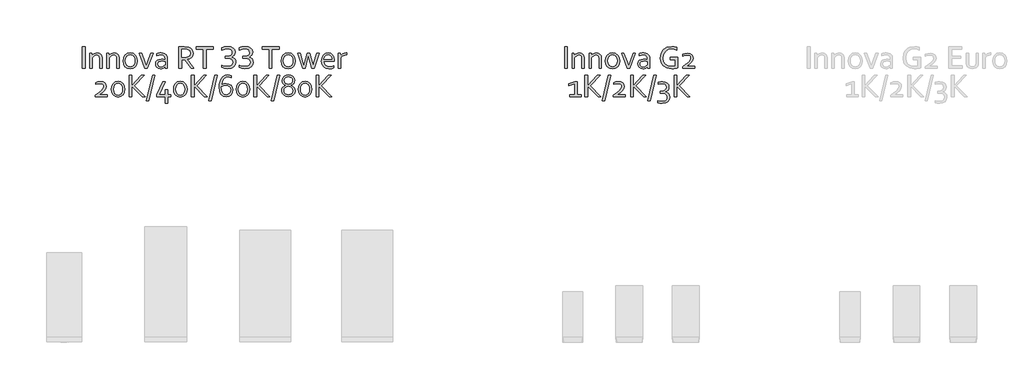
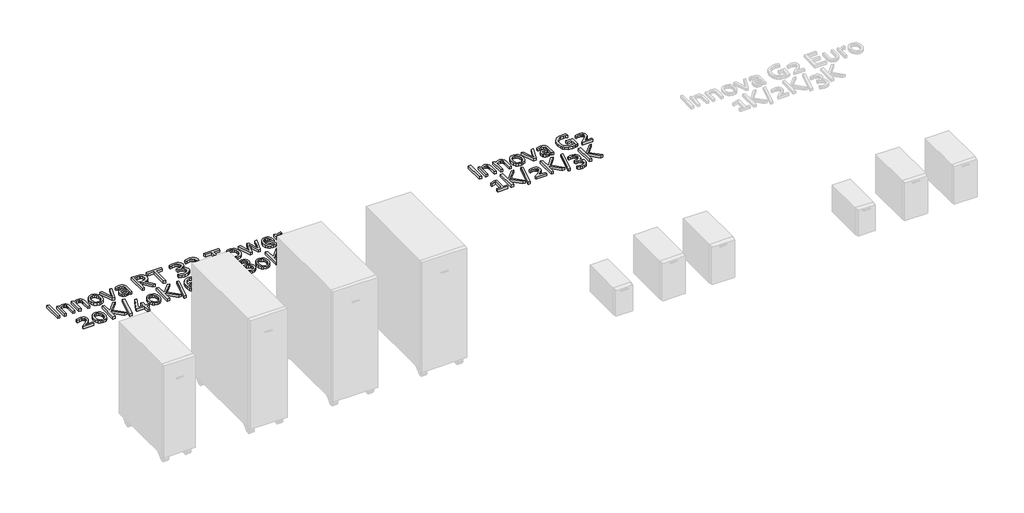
# One storey, part 10 of 14: 2 proxies.
"""IFC4 building model written with IfcOpenShell, lengths in millimetres."""

from ifc_helpers import new_model, si_unit, origin, origin_with_axes, place, context, project, spatial, polyline, outline, extrude, element, save

model = new_model("IFC4")

# Units and contexts
model_context = context("Model", 3, world=origin())
ifc_project = project(units=[si_unit("LENGTHUNIT", "METRE", prefix="MILLI")], contexts=[model_context])

# Site, building, storey
site = spatial("IfcSite", under=ifc_project)
building = spatial("IfcBuilding", under=site)
storey = spatial("IfcBuildingStorey", under=building, Name="Этаж 01", Elevation=0.0)

# Proxies
placement = place(None, origin())
element("IfcBuildingElementProxy", 1, Name="150 мм Corbel", ObjectType="150 мм Corbel", at=placement, inside=storey, context=model_context, shape_type="SweptSolid", body=[
    extrude(outline(polyline([(15388.5751124, -3344.4864996), (15388.5751124, -3193.2852077), (15408.1752799, -3193.2852077), (15408.1752799, -3344.4864996), (15388.5751124, -3344.4864996)])), origin_with_axes(), (0.0, 0.0, 1.0), 20.0),
    extrude(outline(polyline([(15458.4882098, -3252.8732169), (15465.2038921, -3246.0044082), (15473.0570842, -3240.3824851), (15482.5727905, -3236.619953), (15493.8385118, -3235.2855666), (15507.444878, -3237.2980838), (15518.4480971, -3243.7950143), (15525.8419102, -3255.4982393), (15528.5763086, -3273.260891), (15528.5763086, -3344.4864996), (15511.7761651, -3344.4864996), (15511.7761651, -3275.4046594), (15510.4308411, -3263.4444009), (15506.3948691, -3255.3888633), (15499.7885626, -3250.8114805), (15490.7322353, -3249.2856862), (15473.1883354, -3254.5138559), (15458.5757105, -3268.8858537), (15458.5757105, -3344.4864996), (15441.775567, -3344.4864996), (15441.775567, -3238.0855905), (15455.119431, -3238.0855905), (15458.4882098, -3252.8732169)])), origin_with_axes(), (0.0, 0.0, 1.0), 20.0),
    extrude(outline(polyline([(15578.8892385, -3252.8732169), (15585.6049208, -3246.0044082), (15593.4581129, -3240.3824851), (15602.9738192, -3236.619953), (15614.2395405, -3235.2855666), (15627.8459067, -3237.2980838), (15638.8491257, -3243.7950143), (15646.2429389, -3255.4982393), (15648.9773373, -3273.260891), (15648.9773373, -3344.4864996), (15632.1771937, -3344.4864996), (15632.1771937, -3275.4046594), (15630.8318697, -3263.4444009), (15626.7958978, -3255.3888633), (15620.1895913, -3250.8114805), (15611.1332639, -3249.2856862), (15593.5893641, -3254.5138559), (15578.9767392, -3268.8858537), (15578.9767392, -3344.4864996), (15562.1765957, -3344.4864996), (15562.1765957, -3238.0855905), (15575.5204597, -3238.0855905), (15578.8892385, -3252.8732169)])), origin_with_axes(), (0.0, 0.0, 1.0), 20.0),
    extrude(outline(polyline([(15777.7784377, -3291.4172962), (15774.2127823, -3314.2331161), (15764.1064459, -3331.8863919), (15748.2906858, -3343.2614891), (15727.5092582, -3347.2865235), (15706.3122021, -3343.2614891), (15690.4308164, -3331.8863919), (15680.433856, -3314.2331161), (15676.9775765, -3291.4172962), (15680.543232, -3268.4264747), (15690.6495683, -3250.7294485), (15706.530954, -3239.310601), (15727.3780071, -3235.2855666), (15748.4875625, -3239.310601), (15764.3689482, -3250.7294485), (15774.3221582, -3268.4264747), (15777.7784377, -3291.4172962)]), holes=[polyline([(15760.9782942, -3291.4172962), (15758.4845229, -3273.5452685), (15751.5063383, -3260.3107804), (15740.8531222, -3252.0857101), (15727.3780071, -3249.2856862), (15713.902892, -3252.0857101), (15703.249676, -3260.3107804), (15696.2714914, -3273.5452685), (15693.77772, -3291.4172962), (15696.2714914, -3309.1580727), (15703.3153015, -3322.3269353), (15714.0122679, -3330.48638), (15727.5092582, -3333.2864039), (15740.9187478, -3330.48638), (15751.5063383, -3322.3269353), (15758.4845229, -3309.1580727), (15760.9782942, -3291.4172962)])]), origin_with_axes(), (0.0, 0.0, 1.0), 20.0),
    extrude(outline(polyline([(15840.6914752, -3326.8988493), (15851.4540672, -3297.2360959), (15872.9792511, -3238.0855905), (15889.7793946, -3238.0855905), (15849.7478026, -3344.4864996), (15831.8101494, -3344.4864996), (15791.7785573, -3238.0855905), (15808.5787009, -3238.0855905), (15829.9726337, -3297.2360959), (15840.6914752, -3326.8988493)])), origin_with_axes(), (0.0, 0.0, 1.0), 20.0),
    extrude(outline(polyline([(15974.3051168, -3332.717649), (15968.5081923, -3338.0333194), (15961.0925039, -3342.7583598), (15951.9049254, -3346.061513), (15941.2735846, -3347.2865235), (15927.2515898, -3345.0333793), (15916.2921212, -3338.4051976), (15909.1389351, -3327.7519816), (15906.5795382, -3313.5112349), (15909.4233125, -3299.5111153), (15917.3858805, -3289.0329008), (15929.7016107, -3282.4047192), (15945.6048716, -3280.0859494), (15960.8518769, -3281.5734621), (15973.3426086, -3284.9422408), (15973.7801123, -3277.3296758), (15973.2113575, -3268.9952296), (15971.286341, -3262.6295502), (15962.0112618, -3253.0700935), (15944.7298641, -3249.2856862), (15929.5266092, -3250.7731989), (15915.3733633, -3254.885734), (15915.3733633, -3241.1918671), (15921.6952923, -3238.8074717), (15929.3734829, -3236.9043304), (15937.8829306, -3235.7011951), (15946.8736325, -3235.2855666), (15961.5081325, -3236.7129225), (15973.1238567, -3240.9949904), (15981.7864307, -3247.6286408), (15987.5614801, -3256.1107445), (15989.8802499, -3264.007687), (15990.5802559, -3273.4796429), (15990.5802559, -3344.4864996), (15976.1863829, -3344.4864996), (15974.3051168, -3332.717649)]), holes=[polyline([(15973.7801123, -3298.067353), (15962.1643881, -3295.4642057), (15947.3986369, -3294.086069), (15929.7453611, -3298.8548597), (15924.9711016, -3304.9033489), (15923.3796817, -3313.5112349), (15924.9765704, -3322.2613097), (15929.3516077, -3328.4519876), (15935.936039, -3332.0832686), (15944.0736085, -3333.2864039), (15954.661199, -3331.6457649), (15963.3675234, -3327.7301064), (15969.8425787, -3323.1800675), (15973.7801123, -3319.6362873), (15973.7801123, -3298.067353)])]), origin_with_axes(), (0.0, 0.0, 1.0), 20.0),
    extrude(outline(polyline([(16091.3811171, -3282.8859733), (16091.3811171, -3344.4864996), (16071.7809496, -3344.4864996), (16071.7809496, -3193.2852077), (16110.7625327, -3193.2852077), (16127.5626762, -3194.0289641), (16140.2065343, -3196.3914843), (16154.0972779, -3202.2540344), (16164.2692398, -3211.1791106), (16170.5036681, -3222.9370236), (16172.5818109, -3237.2980838), (16169.672411, -3253.8794755), (16161.4910911, -3266.5670839), (16148.8691083, -3275.360909), (16132.5502188, -3280.392202), (16178.1818587, -3344.4864996), (16158.5816912, -3344.4864996), (16113.1250529, -3282.8859733), (16091.3811171, -3282.8859733)]), holes=[polyline([(16091.3811171, -3210.0853513), (16091.3811171, -3266.0858297), (16109.0562681, -3266.0858297), (16123.1001381, -3265.5170749), (16133.5564774, -3263.4608073), (16147.9284752, -3253.9669762), (16152.9816434, -3236.9480808), (16148.1472271, -3221.1104455), (16135.0877405, -3212.4916218), (16125.659535, -3210.6541061), (16111.6812905, -3210.0853513), (16091.3811171, -3210.0853513)])]), origin_with_axes(), (0.0, 0.0, 1.0), 20.0),
    extrude(outline(polyline([(16264.9826003, -3344.4864996), (16245.3824329, -3344.4864996), (16245.3824329, -3210.0853513), (16195.2882549, -3210.0853513), (16195.2882549, -3193.2852077), (16315.0767783, -3193.2852077), (16315.0767783, -3210.0853513), (16264.9826003, -3210.0853513), (16264.9826003, -3344.4864996)])), origin_with_axes(), (0.0, 0.0, 1.0), 20.0),
    extrude(outline(polyline([(16376.1523001, -3199.9790149), (16383.7648652, -3196.5664858), (16393.455573, -3193.5695852), (16404.9400461, -3191.3601913), (16417.8464064, -3190.4851838), (16439.7653436, -3193.2852077), (16455.9529819, -3201.3790269), (16465.9718175, -3214.263512), (16469.3843467, -3231.5667848), (16467.4155799, -3244.0356413), (16462.0999095, -3253.5732228), (16454.2685925, -3260.4857819), (16444.840387, -3265.0358208), (16456.2154842, -3269.6733604), (16465.5343138, -3276.5421691), (16472.2499962, -3286.6703806), (16474.9843945, -3300.4298732), (16471.5062398, -3318.5862783), (16460.5905216, -3333.5051558), (16441.7122353, -3343.5677417), (16414.2588757, -3347.2865235), (16391.8586843, -3344.9021281), (16374.0085318, -3338.1426954), (16374.0085318, -3321.8675563), (16391.5961821, -3328.145735), (16412.1151074, -3330.48638), (16430.8949553, -3328.5066756), (16444.4466336, -3322.5675623), (16452.6498287, -3312.9643553), (16455.3842271, -3299.9923694), (16452.9888941, -3289.1750895), (16445.8028952, -3281.1359583), (16433.8262304, -3276.1484157), (16417.0588996, -3274.4859015), (16400.127505, -3274.4859015), (16400.127505, -3257.685758), (16415.3963854, -3257.685758), (16431.9777771, -3255.8263671), (16442.5653676, -3250.6200726), (16448.1654154, -3242.7012549), (16449.7841792, -3232.7480449), (16447.771662, -3222.4229567), (16441.4934834, -3214.3510127), (16430.6871411, -3209.1447182), (16414.9151313, -3207.2853274), (16395.0305864, -3209.582222), (16376.1523001, -3215.6853991), (16376.1523001, -3199.9790149)])), origin_with_axes(), (0.0, 0.0, 1.0), 20.0),
    extrude(outline(polyline([(16499.3533527, -3199.9790149), (16506.9659178, -3196.5664858), (16516.6566256, -3193.5695852), (16528.1410987, -3191.3601913), (16541.047459, -3190.4851838), (16562.9663962, -3193.2852077), (16579.1540345, -3201.3790269), (16589.1728701, -3214.263512), (16592.5853993, -3231.5667848), (16590.6166325, -3244.0356413), (16585.3009621, -3253.5732228), (16577.4696452, -3260.4857819), (16568.0414396, -3265.0358208), (16579.4165368, -3269.6733604), (16588.7353664, -3276.5421691), (16595.4510488, -3286.6703806), (16598.1854471, -3300.4298732), (16594.7072924, -3318.5862783), (16583.7915742, -3333.5051558), (16564.9132879, -3343.5677417), (16537.4599283, -3347.2865235), (16515.0597369, -3344.9021281), (16497.2095844, -3338.1426954), (16497.2095844, -3321.8675563), (16514.7972347, -3328.145735), (16535.31616, -3330.48638), (16554.096008, -3328.5066756), (16567.6476862, -3322.5675623), (16575.8508813, -3312.9643553), (16578.5852797, -3299.9923694), (16576.1899467, -3289.1750895), (16569.0039478, -3281.1359583), (16557.027283, -3276.1484157), (16540.2599522, -3274.4859015), (16523.3285576, -3274.4859015), (16523.3285576, -3257.685758), (16538.597438, -3257.685758), (16555.1788297, -3255.8263671), (16565.7664202, -3250.6200726), (16571.366468, -3242.7012549), (16572.9852318, -3232.7480449), (16570.9727146, -3222.4229567), (16564.694536, -3214.3510127), (16553.8881937, -3209.1447182), (16538.1161839, -3207.2853274), (16518.231639, -3209.582222), (16499.3533527, -3215.6853991), (16499.3533527, -3199.9790149)])), origin_with_axes(), (0.0, 0.0, 1.0), 20.0),
    extrude(outline(polyline([(16729.7865715, -3344.4864996), (16710.1864041, -3344.4864996), (16710.1864041, -3210.0853513), (16660.0922261, -3210.0853513), (16660.0922261, -3193.2852077), (16779.8807495, -3193.2852077), (16779.8807495, -3210.0853513), (16729.7865715, -3210.0853513), (16729.7865715, -3344.4864996)])), origin_with_axes(), (0.0, 0.0, 1.0), 20.0),
    extrude(outline(polyline([(16894.987983, -3291.4172962), (16891.4223275, -3314.2331161), (16881.3159912, -3331.8863919), (16865.500231, -3343.2614891), (16844.7188035, -3347.2865235), (16823.5217474, -3343.2614891), (16807.6403617, -3331.8863919), (16797.6434013, -3314.2331161), (16794.1871217, -3291.4172962), (16797.7527772, -3268.4264747), (16807.8591136, -3250.7294485), (16823.7404992, -3239.310601), (16844.5875524, -3235.2855666), (16865.6971077, -3239.310601), (16881.5784934, -3250.7294485), (16891.5317034, -3268.4264747), (16894.987983, -3291.4172962)]), holes=[polyline([(16878.1878394, -3291.4172962), (16875.6940681, -3273.5452685), (16868.7158835, -3260.3107804), (16858.0626675, -3252.0857101), (16844.5875524, -3249.2856862), (16831.1124372, -3252.0857101), (16820.4592212, -3260.3107804), (16813.4810366, -3273.5452685), (16810.9872653, -3291.4172962), (16813.4810366, -3309.1580727), (16820.5248468, -3322.3269353), (16831.2218132, -3330.48638), (16844.7188035, -3333.2864039), (16858.1282931, -3330.48638), (16868.7158835, -3322.3269353), (16875.6940681, -3309.1580727), (16878.1878394, -3291.4172962)])]), origin_with_axes(), (0.0, 0.0, 1.0), 20.0),
    extrude(outline(polyline([(16987.3012717, -3255.6732408), (16980.6949652, -3281.0047072), (16963.5885691, -3344.4864996), (16946.1321699, -3344.4864996), (16911.7881265, -3238.0855905), (16928.58827, -3238.0855905), (16948.8009427, -3304.3674068), (16954.8822447, -3325.3238359), (16961.2260489, -3302.048637), (16978.9887007, -3238.0855905), (16995.7888442, -3238.0855905), (17014.5140042, -3302.048637), (17020.7703076, -3325.3238359), (17026.9828607, -3304.3674068), (17046.1892748, -3238.0855905), (17062.9894183, -3238.0855905), (17028.6453749, -3344.4864996), (17011.0139743, -3344.4864996), (16993.8638278, -3281.0047072), (16987.3012717, -3255.6732408)])), origin_with_axes(), (0.0, 0.0, 1.0), 20.0),
    extrude(outline(polyline([(17135.1337847, -3333.2864039), (17150.9057945, -3331.8207664), (17165.1027908, -3327.686356), (17165.1027908, -3341.5114742), (17150.9714201, -3345.7333852), (17132.9025157, -3347.2865235), (17111.4429573, -3344.3771236), (17094.4240619, -3334.9707933), (17083.6177196, -3317.9956482), (17079.7895619, -3292.7298074), (17083.7708459, -3267.4858417), (17094.3584364, -3249.6356892), (17109.5835664, -3238.8730972), (17127.5649701, -3235.2855666), (17144.058861, -3238.2168416), (17157.3589746, -3247.4481705), (17166.2621757, -3263.7014344), (17169.5215785, -3287.5672633), (17169.5215785, -3289.8204075), (17169.3903274, -3294.086069), (17095.6709476, -3294.086069), (17098.7553489, -3312.2862245), (17107.1772959, -3324.405078), (17119.6899028, -3331.1645108), (17135.1337847, -3333.2864039)]), holes=[polyline([(17126.8212137, -3249.2856862), (17115.3148654, -3251.7138319), (17106.0397862, -3258.3201384), (17099.6084812, -3268.0983469), (17096.5897054, -3280.0859494), (17152.5901839, -3280.0859494), (17150.9057945, -3267.988971), (17145.9401271, -3258.2107625), (17137.8900583, -3251.6700816), (17126.8212137, -3249.2856862)])]), origin_with_axes(), (0.0, 0.0, 1.0), 20.0),
    extrude(outline(polyline([(17257.9848344, -3249.2856862), (17244.5534696, -3250.4450711), (17233.3971243, -3253.9669762), (17223.9907939, -3259.8076511), (17216.9907341, -3268.0108462), (17216.9907341, -3344.4864996), (17200.1905906, -3344.4864996), (17200.1905906, -3238.0855905), (17213.1844516, -3238.0855905), (17216.4219792, -3255.0169852), (17223.0720361, -3247.273169), (17231.5377334, -3240.9949904), (17241.8628216, -3236.7949545), (17253.6535473, -3235.2855666), (17255.9285668, -3235.329317), (17257.9848344, -3235.4605681), (17257.9848344, -3249.2856862)])), origin_with_axes(), (0.0, 0.0, 1.0), 20.0),
    extrude(outline(polyline([(15510.1574012, -3531.3243143), (15533.3450993, -3530.8868106), (15567.0328872, -3530.8868106), (15567.0328872, -3544.8869302), (15481.7634086, -3544.8869302), (15481.7634086, -3535.3493487), (15505.5417368, -3517.5648218), (15524.3106471, -3501.7490616), (15536.6920029, -3487.0051857), (15541.1764162, -3472.5675623), (15539.6068716, -3463.9596763), (15534.8982376, -3457.6486848), (15527.247391, -3453.7767768), (15516.8512084, -3452.4861407), (15499.8760634, -3454.0830294), (15482.9009184, -3458.0861886), (15482.9009184, -3446.0110854), (15498.6510529, -3440.7391654), (15519.2137286, -3438.4860211), (15535.3576165, -3440.7172902), (15547.585846, -3447.2142207), (15555.2640366, -3457.7580608), (15557.9765598, -3472.2613097), (15554.4327795, -3488.6239495), (15544.6326958, -3503.2365743), (15529.4075657, -3517.0616925), (15510.1574012, -3531.3243143)])), origin_with_axes(), (0.0, 0.0, 1.0), 20.0),
    extrude(outline(polyline([(15689.5776842, -3491.8177268), (15686.3620317, -3513.9116655), (15677.0213269, -3531.6524421), (15662.1243246, -3543.4212927), (15642.0647782, -3547.6869541), (15621.6114785, -3543.4212927), (15606.6488506, -3531.6524421), (15597.4831473, -3513.9116655), (15594.3768708, -3491.8177268), (15597.5925233, -3469.5706617), (15606.9332281, -3451.7642596), (15621.8958559, -3439.9516586), (15641.9772775, -3435.6859972), (15662.3430765, -3439.9516586), (15677.3057043, -3451.7642596), (15686.4714076, -3469.5706617), (15689.5776842, -3491.8177268)]), holes=[polyline([(15672.7775406, -3491.8177268), (15670.5900219, -3474.164451), (15664.399344, -3460.9299629), (15654.7305114, -3452.5955167), (15641.9772775, -3449.6861168), (15629.2240435, -3452.5955167), (15619.5114605, -3460.9299629), (15613.3207826, -3474.164451), (15611.1770143, -3491.8177268), (15613.364533, -3509.3178763), (15619.5552109, -3522.508614), (15629.2896691, -3530.7774346), (15642.1085286, -3533.6868345), (15654.8398874, -3530.7774346), (15664.50872, -3522.508614), (15670.6337723, -3509.3178763), (15672.7775406, -3491.8177268)])]), origin_with_axes(), (0.0, 0.0, 1.0), 20.0),
    extrude(outline(polyline([(15720.3779473, -3544.8869302), (15720.3779473, -3393.6856384), (15739.9781148, -3393.6856384), (15739.9781148, -3468.3675264), (15807.1786889, -3393.6856384), (15826.7788564, -3393.6856384), (15756.8220087, -3468.9362813), (15832.3789042, -3544.8869302), (15812.7787368, -3544.8869302), (15740.1968666, -3470.8612977), (15740.1968666, -3544.8869302), (15720.3779473, -3544.8869302)])), origin_with_axes(), (0.0, 0.0, 1.0), 20.0),
    extrude(outline(polyline([(15842.7914932, -3572.8871694), (15885.4043573, -3393.6856384), (15901.9857489, -3393.6856384), (15859.3728849, -3572.8871694), (15842.7914932, -3572.8871694)])), origin_with_axes(), (0.0, 0.0, 1.0), 20.0),
    extrude(outline(polyline([(15934.0110226, -3530.8868106), (15950.6361646, -3530.8868106), (15975.1801243, -3530.8868106), (15975.1801243, -3496.8052694), (15991.9802678, -3496.8052694), (15991.9802678, -3530.8868106), (16014.0742066, -3530.8868106), (16014.0742066, -3545.9369392), (15991.9802678, -3545.9369392), (15991.9802678, -3589.687313), (15975.1801243, -3589.687313), (15975.1801243, -3544.8869302), (15914.1921032, -3544.8869302), (15914.1921032, -3532.111821), (15958.3362304, -3438.4860211), (15977.01764, -3438.4860211), (15934.0110226, -3530.8868106)])), origin_with_axes(), (0.0, 0.0, 1.0), 20.0),
    extrude(outline(polyline([(16129.1814401, -3491.8177268), (16125.9657876, -3513.9116655), (16116.6250828, -3531.6524421), (16101.7280805, -3543.4212927), (16081.6685341, -3547.6869541), (16061.2152344, -3543.4212927), (16046.2526065, -3531.6524421), (16037.0869032, -3513.9116655), (16033.9806267, -3491.8177268), (16037.1962792, -3469.5706617), (16046.536984, -3451.7642596), (16061.4996118, -3439.9516586), (16081.5810334, -3435.6859972), (16101.9468324, -3439.9516586), (16116.9094602, -3451.7642596), (16126.0751635, -3469.5706617), (16129.1814401, -3491.8177268)]), holes=[polyline([(16112.3812965, -3491.8177268), (16110.1937778, -3474.164451), (16104.0030999, -3460.9299629), (16094.3342673, -3452.5955167), (16081.5810334, -3449.6861168), (16068.8277994, -3452.5955167), (16059.1152164, -3460.9299629), (16052.9245385, -3474.164451), (16050.7807702, -3491.8177268), (16052.9682889, -3509.3178763), (16059.1589668, -3522.508614), (16068.893425, -3530.7774346), (16081.7122845, -3533.6868345), (16094.4436433, -3530.7774346), (16104.1124759, -3522.508614), (16110.2375282, -3509.3178763), (16112.3812965, -3491.8177268)])]), origin_with_axes(), (0.0, 0.0, 1.0), 20.0),
    extrude(outline(polyline([(16159.9817032, -3544.8869302), (16159.9817032, -3393.6856384), (16179.5818707, -3393.6856384), (16179.5818707, -3468.3675264), (16246.7824448, -3393.6856384), (16266.3826123, -3393.6856384), (16196.4257646, -3468.9362813), (16271.9826601, -3544.8869302), (16252.3824927, -3544.8869302), (16179.8006225, -3470.8612977), (16179.8006225, -3544.8869302), (16159.9817032, -3544.8869302)])), origin_with_axes(), (0.0, 0.0, 1.0), 20.0),
    extrude(outline(polyline([(16282.3952491, -3572.8871694), (16325.0081132, -3393.6856384), (16341.5895048, -3393.6856384), (16298.9766408, -3572.8871694), (16282.3952491, -3572.8871694)])), origin_with_axes(), (0.0, 0.0, 1.0), 20.0),
    extrude(outline(polyline([(16406.5588099, -3452.4861407), (16425.5683473, -3455.329915), (16440.6184759, -3463.7299868), (16450.46231, -3477.445729), (16453.9842151, -3496.2802649), (16450.7466875, -3515.9241827), (16441.3841075, -3531.2805639), (16426.4214796, -3541.2775244), (16406.3400581, -3544.8869302), (16385.0773764, -3540.2275154), (16369.2616163, -3526.9055266), (16359.395907, -3505.9272223), (16355.9833778, -3478.2988613), (16357.6896424, -3455.5267917), (16362.7865609, -3434.7672394), (16371.2085079, -3417.0045876), (16383.3054862, -3403.1357191), (16399.1212464, -3394.1012669), (16418.1964094, -3390.8856144), (16432.8746598, -3392.5481286), (16443.1778728, -3396.0919089), (16443.1778728, -3410.4857819), (16432.437156, -3406.6138738), (16419.4214198, -3404.885734), (16403.8025364, -3408.2107625), (16390.064919, -3418.4702251), (16379.5648293, -3436.0797506), (16373.5710281, -3461.3237162), (16389.8899175, -3454.8924113), (16406.5588099, -3452.4861407)]), holes=[polyline([(16407.1275648, -3530.8868106), (16418.9401657, -3528.6992919), (16428.4777472, -3522.2679869), (16434.8653018, -3511.7678972), (16437.1840716, -3497.461525), (16434.7340506, -3482.9582761), (16428.0621186, -3473.355069), (16418.1745342, -3468.083149), (16406.0775558, -3466.4862604), (16388.774283, -3469.3519098), (16372.7835214, -3476.3738448), (16375.2116671, -3500.4146752), (16382.3211028, -3517.4554458), (16393.2368211, -3527.5617822), (16407.1275648, -3530.8868106)])]), origin_with_axes(), (0.0, 0.0, 1.0), 20.0),
    extrude(outline(polyline([(16571.5852199, -3491.8177268), (16568.3695674, -3513.9116655), (16559.0288626, -3531.6524421), (16544.1318603, -3543.4212927), (16524.0723139, -3547.6869541), (16503.6190142, -3543.4212927), (16488.6563863, -3531.6524421), (16479.490683, -3513.9116655), (16476.3844065, -3491.8177268), (16479.600059, -3469.5706617), (16488.9407638, -3451.7642596), (16503.9033916, -3439.9516586), (16523.9848132, -3435.6859972), (16544.3506122, -3439.9516586), (16559.31324, -3451.7642596), (16568.4789433, -3469.5706617), (16571.5852199, -3491.8177268)]), holes=[polyline([(16554.7850763, -3491.8177268), (16552.5975577, -3474.164451), (16546.4068798, -3460.9299629), (16536.7380471, -3452.5955167), (16523.9848132, -3449.6861168), (16511.2315792, -3452.5955167), (16501.5189962, -3460.9299629), (16495.3283184, -3474.164451), (16493.18455, -3491.8177268), (16495.3720687, -3509.3178763), (16501.5627466, -3522.508614), (16511.2972048, -3530.7774346), (16524.1160643, -3533.6868345), (16536.8474231, -3530.7774346), (16546.5162557, -3522.508614), (16552.641308, -3509.3178763), (16554.7850763, -3491.8177268)])]), origin_with_axes(), (0.0, 0.0, 1.0), 20.0),
    extrude(outline(polyline([(16602.385483, -3544.8869302), (16602.385483, -3393.6856384), (16621.9856505, -3393.6856384), (16621.9856505, -3468.3675264), (16689.1862246, -3393.6856384), (16708.7863921, -3393.6856384), (16638.8295444, -3468.9362813), (16714.3864399, -3544.8869302), (16694.7862725, -3544.8869302), (16622.2044024, -3470.8612977), (16622.2044024, -3544.8869302), (16602.385483, -3544.8869302)])), origin_with_axes(), (0.0, 0.0, 1.0), 20.0),
    extrude(outline(polyline([(16724.7990289, -3572.8871694), (16767.411893, -3393.6856384), (16783.9932847, -3393.6856384), (16741.3804206, -3572.8871694), (16724.7990289, -3572.8871694)])), origin_with_axes(), (0.0, 0.0, 1.0), 20.0),
    extrude(outline(polyline([(16845.9875643, -3544.8869302), (16826.5405232, -3541.7150281), (16811.4903946, -3532.9868285), (16801.7996868, -3519.817966), (16798.3871576, -3503.3240751), (16800.5746763, -3488.7552006), (16806.743479, -3477.7519816), (16816.0404335, -3470.0300406), (16827.3061547, -3465.5237521), (16816.9373161, -3459.9893298), (16808.6466203, -3452.2892641), (16803.1559484, -3442.095427), (16801.1871816, -3429.5171945), (16804.9497137, -3412.9139276), (16814.9904245, -3400.7950741), (16829.2967967, -3393.3793857), (16845.9875643, -3390.8856144), (16862.6783319, -3393.3793857), (16876.9847042, -3400.7950741), (16887.0254149, -3412.9139276), (16890.7879471, -3429.5171945), (16888.6004284, -3442.095427), (16882.7160031, -3452.2892641), (16874.0753043, -3459.9893298), (16863.5314642, -3465.0862484), (16874.972187, -3470.0300406), (16884.6628948, -3477.7519816), (16891.2254508, -3488.7552006), (16893.587971, -3503.3240751), (16890.1754419, -3519.817966), (16880.4847341, -3532.9868285), (16865.4346055, -3541.7150281), (16845.9875643, -3544.8869302)]), holes=[polyline([(16845.9875643, -3472.0863082), (16833.9999619, -3474.9082073), (16824.1998782, -3480.7488822), (16817.5935717, -3489.8708351), (16815.1873012, -3502.5365684), (16817.5279462, -3514.3491693), (16823.9811263, -3523.3179959), (16833.7374597, -3528.9399189), (16845.9875643, -3530.8868106), (16858.3689201, -3528.9399189), (16868.1252535, -3523.3179959), (16874.512808, -3514.3491693), (16876.7878275, -3502.5365684), (16874.3815569, -3489.8708351), (16867.7752505, -3480.7488822), (16857.9751667, -3474.9082073), (16845.9875643, -3472.0863082)]), polyline([(16845.9875643, -3404.885734), (16834.8093438, -3406.5044979), (16825.9061428, -3411.317039), (16820.0654678, -3419.1046055), (16817.9873251, -3429.7359464), (16819.8248408, -3440.0938474), (16825.3373879, -3448.3298552), (16834.1749634, -3454.3564692), (16845.9875643, -3458.0861886), (16857.8001652, -3454.3564692), (16866.6377408, -3448.3298552), (16872.1502879, -3440.0938474), (16873.9878036, -3429.7359464), (16871.9096608, -3419.1046055), (16866.0689859, -3411.317039), (16857.2095352, -3406.5044979), (16845.9875643, -3404.885734)])]), origin_with_axes(), (0.0, 0.0, 1.0), 20.0),
    extrude(outline(polyline([(17011.1889758, -3491.8177268), (17007.9733233, -3513.9116655), (16998.6326185, -3531.6524421), (16983.7356162, -3543.4212927), (16963.6760698, -3547.6869541), (16943.2227701, -3543.4212927), (16928.2601422, -3531.6524421), (16919.0944389, -3513.9116655), (16915.9881624, -3491.8177268), (16919.2038149, -3469.5706617), (16928.5445197, -3451.7642596), (16943.5071475, -3439.9516586), (16963.5885691, -3435.6859972), (16983.9543681, -3439.9516586), (16998.9169959, -3451.7642596), (17008.0826992, -3469.5706617), (17011.1889758, -3491.8177268)]), holes=[polyline([(16994.3888322, -3491.8177268), (16992.2013135, -3474.164451), (16986.0106357, -3460.9299629), (16976.341803, -3452.5955167), (16963.5885691, -3449.6861168), (16950.8353351, -3452.5955167), (16941.1227521, -3460.9299629), (16934.9320742, -3474.164451), (16932.7883059, -3491.8177268), (16934.9758246, -3509.3178763), (16941.1665025, -3522.508614), (16950.9009607, -3530.7774346), (16963.7198202, -3533.6868345), (16976.451179, -3530.7774346), (16986.1200116, -3522.508614), (16992.2450639, -3509.3178763), (16994.3888322, -3491.8177268)])]), origin_with_axes(), (0.0, 0.0, 1.0), 20.0),
    extrude(outline(polyline([(17041.9892389, -3544.8869302), (17041.9892389, -3393.6856384), (17061.5894064, -3393.6856384), (17061.5894064, -3468.3675264), (17128.7899805, -3393.6856384), (17148.390148, -3393.6856384), (17078.4333003, -3468.9362813), (17153.9901958, -3544.8869302), (17134.3900284, -3544.8869302), (17061.8081583, -3470.8612977), (17061.8081583, -3544.8869302), (17041.9892389, -3544.8869302)])), origin_with_axes(), (0.0, 0.0, 1.0), 20.0),
])
element("IfcBuildingElementProxy", 2, Name="150 мм Corbel", ObjectType="150 мм Corbel", at=placement, inside=storey, context=model_context, shape_type="SweptSolid", body=[
    extrude(outline(polyline([(18798.5233732, -3344.4864996), (18798.5233732, -3193.2852077), (18818.1235407, -3193.2852077), (18818.1235407, -3344.4864996), (18798.5233732, -3344.4864996)])), origin_with_axes(), (0.0, 0.0, 1.0), 20.0),
    extrude(outline(polyline([(18868.4364705, -3252.8732169), (18875.1521529, -3246.0044082), (18883.005345, -3240.3824851), (18892.5210513, -3236.619953), (18903.7867725, -3235.2855666), (18917.3931388, -3237.2980838), (18928.3963578, -3243.7950143), (18935.790171, -3255.4982393), (18938.5245693, -3273.260891), (18938.5245693, -3344.4864996), (18921.7244258, -3344.4864996), (18921.7244258, -3275.4046594), (18920.3791018, -3263.4444009), (18916.3431298, -3255.3888633), (18909.7368234, -3250.8114805), (18900.680496, -3249.2856862), (18883.1365961, -3254.5138559), (18868.5239713, -3268.8858537), (18868.5239713, -3344.4864996), (18851.7238277, -3344.4864996), (18851.7238277, -3238.0855905), (18865.0676917, -3238.0855905), (18868.4364705, -3252.8732169)])), origin_with_axes(), (0.0, 0.0, 1.0), 20.0),
    extrude(outline(polyline([(18988.8374992, -3252.8732169), (18995.5531816, -3246.0044082), (19003.4063737, -3240.3824851), (19012.92208, -3236.619953), (19024.1878012, -3235.2855666), (19037.7941675, -3237.2980838), (19048.7973865, -3243.7950143), (19056.1911997, -3255.4982393), (19058.925598, -3273.260891), (19058.925598, -3344.4864996), (19042.1254545, -3344.4864996), (19042.1254545, -3275.4046594), (19040.7801305, -3263.4444009), (19036.7441585, -3255.3888633), (19030.1378521, -3250.8114805), (19021.0815247, -3249.2856862), (19003.5376248, -3254.5138559), (18988.925, -3268.8858537), (18988.925, -3344.4864996), (18972.1248564, -3344.4864996), (18972.1248564, -3238.0855905), (18985.4687204, -3238.0855905), (18988.8374992, -3252.8732169)])), origin_with_axes(), (0.0, 0.0, 1.0), 20.0),
    extrude(outline(polyline([(19187.7266985, -3291.4172962), (19184.161043, -3314.2331161), (19174.0547067, -3331.8863919), (19158.2389465, -3343.2614891), (19137.457519, -3347.2865235), (19116.2604629, -3343.2614891), (19100.3790772, -3331.8863919), (19090.3821168, -3314.2331161), (19086.9258373, -3291.4172962), (19090.4914927, -3268.4264747), (19100.5978291, -3250.7294485), (19116.4792148, -3239.310601), (19137.3262679, -3235.2855666), (19158.4358232, -3239.310601), (19174.3172089, -3250.7294485), (19184.270419, -3268.4264747), (19187.7266985, -3291.4172962)]), holes=[polyline([(19170.9265549, -3291.4172962), (19168.4327836, -3273.5452685), (19161.454599, -3260.3107804), (19150.801383, -3252.0857101), (19137.3262679, -3249.2856862), (19123.8511527, -3252.0857101), (19113.1979367, -3260.3107804), (19106.2197521, -3273.5452685), (19103.7259808, -3291.4172962), (19106.2197521, -3309.1580727), (19113.2635623, -3322.3269353), (19123.9605287, -3330.48638), (19137.457519, -3333.2864039), (19150.8670086, -3330.48638), (19161.454599, -3322.3269353), (19168.4327836, -3309.1580727), (19170.9265549, -3291.4172962)])]), origin_with_axes(), (0.0, 0.0, 1.0), 20.0),
    extrude(outline(polyline([(19250.639736, -3326.8988493), (19261.402328, -3297.2360959), (19282.9275119, -3238.0855905), (19299.7276554, -3238.0855905), (19259.6960634, -3344.4864996), (19241.7584101, -3344.4864996), (19201.7268181, -3238.0855905), (19218.5269616, -3238.0855905), (19239.9208944, -3297.2360959), (19250.639736, -3326.8988493)])), origin_with_axes(), (0.0, 0.0, 1.0), 20.0),
    extrude(outline(polyline([(19384.2533776, -3332.717649), (19378.456453, -3338.0333194), (19371.0407647, -3342.7583598), (19361.8531862, -3346.061513), (19351.2218454, -3347.2865235), (19337.1998506, -3345.0333793), (19326.2403819, -3338.4051976), (19319.0871958, -3327.7519816), (19316.5277989, -3313.5112349), (19319.3715732, -3299.5111153), (19327.3341413, -3289.0329008), (19339.6498715, -3282.4047192), (19355.5531324, -3280.0859494), (19370.8001376, -3281.5734621), (19383.2908693, -3284.9422408), (19383.7283731, -3277.3296758), (19383.1596182, -3268.9952296), (19381.2346018, -3262.6295502), (19371.9595225, -3253.0700935), (19354.6781249, -3249.2856862), (19339.47487, -3250.7731989), (19325.3216241, -3254.885734), (19325.3216241, -3241.1918671), (19331.6435531, -3238.8074717), (19339.3217437, -3236.9043304), (19347.8311914, -3235.7011951), (19356.8218932, -3235.2855666), (19371.4563932, -3236.7129225), (19383.0721175, -3240.9949904), (19391.7346915, -3247.6286408), (19397.5097408, -3256.1107445), (19399.8285106, -3264.007687), (19400.5285166, -3273.4796429), (19400.5285166, -3344.4864996), (19386.1346436, -3344.4864996), (19384.2533776, -3332.717649)]), holes=[polyline([(19383.7283731, -3298.067353), (19372.1126488, -3295.4642057), (19357.3468977, -3294.086069), (19339.6936219, -3298.8548597), (19334.9193623, -3304.9033489), (19333.3279425, -3313.5112349), (19334.9248311, -3322.2613097), (19339.2998685, -3328.4519876), (19345.8842998, -3332.0832686), (19354.0218693, -3333.2864039), (19364.6094597, -3331.6457649), (19373.3157841, -3327.7301064), (19379.7908394, -3323.1800675), (19383.7283731, -3319.6362873), (19383.7283731, -3298.067353)])]), origin_with_axes(), (0.0, 0.0, 1.0), 20.0),
    extrude(outline(polyline([(19579.7300477, -3282.8859733), (19545.5172554, -3282.8859733), (19545.5172554, -3266.0858297), (19599.3302151, -3266.0858297), (19599.3302151, -3339.7614592), (19592.3739057, -3342.3427313), (19581.8956912, -3344.7927522), (19569.2737084, -3346.6083927), (19555.9735947, -3347.2865235), (19521.6076761, -3341.9708531), (19496.6262127, -3326.9425997), (19487.7612932, -3316.1854765), (19481.335457, -3303.339273), (19476.1291625, -3272.3858836), (19481.3573322, -3238.7418461), (19487.8925443, -3224.7034449), (19497.0418412, -3212.8635), (19508.6849094, -3203.3532625), (19522.7014354, -3196.3039835), (19556.1923466, -3190.4851838), (19566.0361807, -3190.9445627), (19575.4643862, -3192.257074), (19583.7550821, -3194.2914663), (19590.1426367, -3196.7852376), (19590.1426367, -3215.6853991), (19574.6550043, -3209.6915979), (19557.1986052, -3207.2853274), (19532.7858966, -3211.1572354), (19512.3325969, -3222.8823356), (19498.2012261, -3242.5700038), (19492.9293061, -3270.329616), (19497.369969, -3297.2798463), (19509.9263263, -3316.0050062), (19529.6358697, -3326.9425997), (19555.4048399, -3330.48638), (19568.3768257, -3329.8082492), (19579.7300477, -3327.9051079), (19579.7300477, -3282.8859733)])), origin_with_axes(), (0.0, 0.0, 1.0), 20.0),
    extrude(outline(polyline([(19660.7119896, -3330.9238837), (19683.8996877, -3330.48638), (19717.5874755, -3330.48638), (19717.5874755, -3344.4864996), (19632.317997, -3344.4864996), (19632.317997, -3334.9489181), (19656.0963251, -3317.1643911), (19674.8652355, -3301.348631), (19687.2465913, -3286.6047551), (19691.7310046, -3272.1671317), (19690.1614599, -3263.5592457), (19685.452826, -3257.2482542), (19677.8019793, -3253.3763462), (19667.4057968, -3252.0857101), (19650.4306517, -3253.6825988), (19633.4555067, -3257.685758), (19633.4555067, -3245.6106548), (19649.2056413, -3240.3387348), (19669.768317, -3238.0855905), (19685.9122049, -3240.3168596), (19698.1404344, -3246.8137901), (19705.818625, -3257.3576302), (19708.5311481, -3271.8608791), (19704.9873679, -3288.2235189), (19695.1872841, -3302.8361437), (19679.9621541, -3316.6612618), (19660.7119896, -3330.9238837)])), origin_with_axes(), (0.0, 0.0, 1.0), 20.0),
    extrude(outline(polyline([(18869.9239832, -3530.8868106), (18869.9239832, -3452.4861407), (18829.4548875, -3466.4862604), (18829.4548875, -3452.4861407), (18872.1990027, -3438.4860211), (18886.7241268, -3438.4860211), (18886.7241268, -3530.8868106), (18916.0806276, -3530.8868106), (18916.0806276, -3544.8869302), (18834.1361775, -3544.8869302), (18834.1361775, -3530.8868106), (18869.9239832, -3530.8868106)])), origin_with_axes(), (0.0, 0.0, 1.0), 20.0),
    extrude(outline(polyline([(18942.7246052, -3544.8869302), (18942.7246052, -3393.6856384), (18962.3247727, -3393.6856384), (18962.3247727, -3468.3675264), (19029.5253468, -3393.6856384), (19049.1255143, -3393.6856384), (18979.1686666, -3468.9362813), (19054.7255621, -3544.8869302), (19035.1253947, -3544.8869302), (18962.5435246, -3470.8612977), (18962.5435246, -3544.8869302), (18942.7246052, -3544.8869302)])), origin_with_axes(), (0.0, 0.0, 1.0), 20.0),
    extrude(outline(polyline([(19065.1381511, -3572.8871694), (19107.7510152, -3393.6856384), (19124.3324069, -3393.6856384), (19081.7195428, -3572.8871694), (19065.1381511, -3572.8871694)])), origin_with_axes(), (0.0, 0.0, 1.0), 20.0),
    extrude(outline(polyline([(19172.107815, -3531.3243143), (19195.2955131, -3530.8868106), (19228.983301, -3530.8868106), (19228.983301, -3544.8869302), (19143.7138224, -3544.8869302), (19143.7138224, -3535.3493487), (19167.4921506, -3517.5648218), (19186.261061, -3501.7490616), (19198.6424167, -3487.0051857), (19203.1268301, -3472.5675623), (19201.5572854, -3463.9596763), (19196.8486514, -3457.6486848), (19189.1978048, -3453.7767768), (19178.8016222, -3452.4861407), (19161.8264772, -3454.0830294), (19144.8513322, -3458.0861886), (19144.8513322, -3446.0110854), (19160.6014667, -3440.7391654), (19181.1641424, -3438.4860211), (19197.3080303, -3440.7172902), (19209.5362598, -3447.2142207), (19217.2144504, -3457.7580608), (19219.9269736, -3472.2613097), (19216.3831933, -3488.6239495), (19206.5831096, -3503.2365743), (19191.3579795, -3517.0616925), (19172.107815, -3531.3243143)])), origin_with_axes(), (0.0, 0.0, 1.0), 20.0),
    extrude(outline(polyline([(19264.7273564, -3544.8869302), (19264.7273564, -3393.6856384), (19284.3275238, -3393.6856384), (19284.3275238, -3468.3675264), (19351.528098, -3393.6856384), (19371.1282654, -3393.6856384), (19301.1714177, -3468.9362813), (19376.7283133, -3544.8869302), (19357.1281458, -3544.8869302), (19284.5462757, -3470.8612977), (19284.5462757, -3544.8869302), (19264.7273564, -3544.8869302)])), origin_with_axes(), (0.0, 0.0, 1.0), 20.0),
    extrude(outline(polyline([(19387.1409022, -3572.8871694), (19429.7537663, -3393.6856384), (19446.335158, -3393.6856384), (19403.7222939, -3572.8871694), (19387.1409022, -3572.8871694)])), origin_with_axes(), (0.0, 0.0, 1.0), 20.0),
    extrude(outline(polyline([(19510.6482075, -3511.6803965), (19522.0233047, -3514.8085482), (19531.6483869, -3521.5242306), (19538.8890738, -3532.2649474), (19541.9297247, -3547.2057), (19538.7140723, -3565.8871096), (19529.1764908, -3580.1934818), (19512.9451021, -3589.2935596), (19490.0417814, -3592.4873369), (19472.6947582, -3590.9560738), (19458.0602582, -3586.4497853), (19458.0602582, -3572.8871694), (19474.0072694, -3577.1747061), (19488.7730206, -3578.4872173), (19506.0544182, -3575.9059452), (19517.2107635, -3569.1027621), (19523.2701903, -3559.3245535), (19525.1295812, -3547.7307045), (19522.6740915, -3534.9282514), (19515.3076223, -3526.2711461), (19503.5442405, -3521.3328227), (19487.8980131, -3519.6867149), (19475.9979114, -3519.6867149), (19475.9979114, -3505.6865953), (19482.9542209, -3505.6865953), (19499.5137373, -3503.4990766), (19510.8888345, -3497.461525), (19517.4513906, -3488.3833224), (19519.5295333, -3477.1176012), (19517.2326387, -3466.092507), (19510.9544601, -3458.4361916), (19501.5918801, -3453.9517783), (19490.0417814, -3452.4861407), (19474.663525, -3453.9955286), (19459.4165198, -3458.0861886), (19459.4165198, -3444.6110735), (19476.9604196, -3439.8204075), (19491.7042956, -3438.4860211), (19511.1075864, -3441.3516706), (19525.0639556, -3449.3798642), (19533.420277, -3461.5862185), (19536.3296769, -3477.1176012), (19534.9734153, -3488.0114443), (19530.5327524, -3497.811528), (19522.5701843, -3505.8397216), (19510.6482075, -3511.6803965)])), origin_with_axes(), (0.0, 0.0, 1.0), 20.0),
    extrude(outline(polyline([(19572.7299879, -3544.8869302), (19572.7299879, -3393.6856384), (19592.3301553, -3393.6856384), (19592.3301553, -3468.3675264), (19659.5307295, -3393.6856384), (19679.130897, -3393.6856384), (19609.1740493, -3468.9362813), (19684.7309448, -3544.8869302), (19665.1307773, -3544.8869302), (19592.5489072, -3470.8612977), (19592.5489072, -3544.8869302), (19572.7299879, -3544.8869302)])), origin_with_axes(), (0.0, 0.0, 1.0), 20.0),
])

save(model, "model.ifc")
